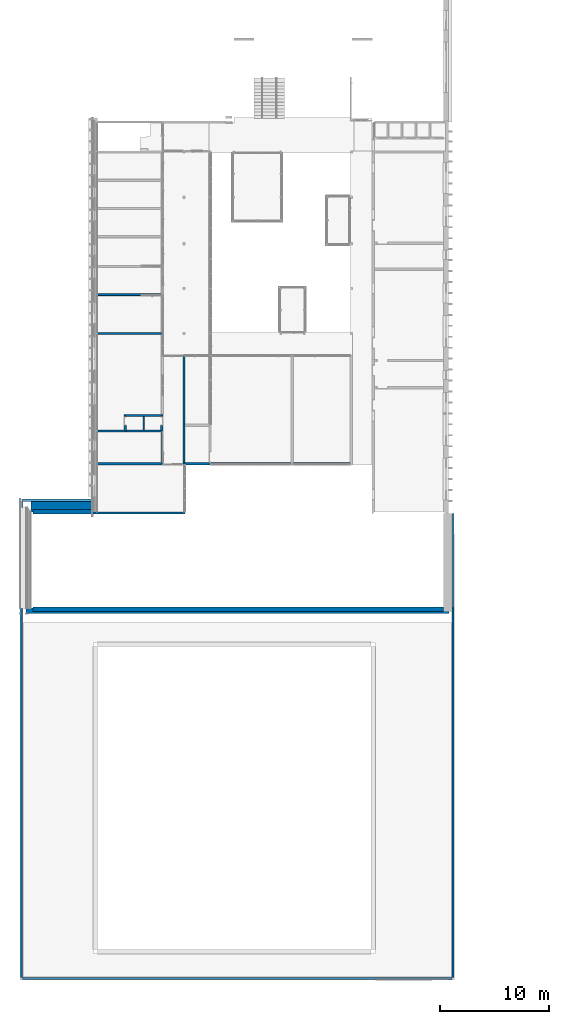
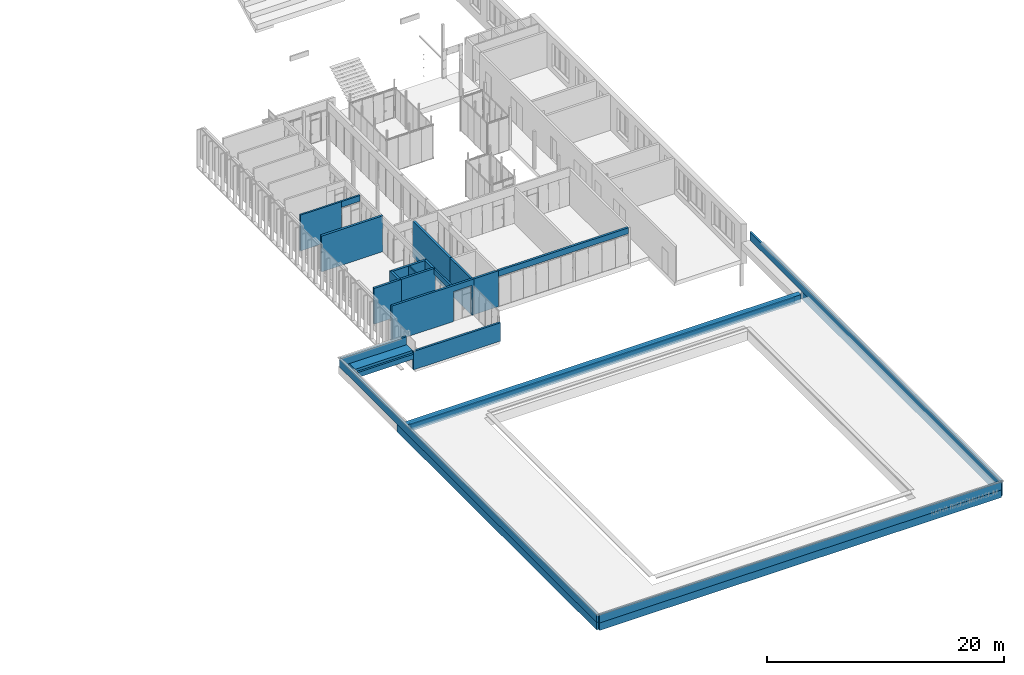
# One storey, part 27 of 387: 27 walls, 3 openings.
"""IFC2X3 building model written with IfcOpenShell, lengths in millimetres."""

from ifc_helpers import new_model, entity, si_unit, converted_unit, derived_unit, money_unit, direction, frame, origin_with_axes, origin_2d_with_axis, place, context, subcontext, project, spatial, polyline, rectangle, outline, extrude, material, layer, layer_set, layer_usage, type_object, element, save


model = new_model("IFC2X3")

# Units and contexts
model_context = context("Model", 3, precision=0.01, world=origin_with_axes(), true_north=direction((0.0, 1.0)))
body_context = subcontext(model_context, "Body", "Model", "MODEL_VIEW")
ifc_project = project(units=[si_unit("LENGTHUNIT", "METRE", prefix="MILLI"), si_unit("AREAUNIT", "SQUARE_METRE"), si_unit("VOLUMEUNIT", "CUBIC_METRE"), converted_unit("PLANEANGLEUNIT", "DEGREE", entity("IfcPlaneAngleMeasure", 0.0174532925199), si_unit("PLANEANGLEUNIT", "RADIAN"), dimensions=[0, 0, 0, 0, 0, 0, 0]), si_unit("SOLIDANGLEUNIT", "STERADIAN"), money_unit("EUR"), converted_unit("TIMEUNIT", "Year", entity("IfcTimeMeasure", 31556926.0), si_unit("TIMEUNIT", "SECOND"), dimensions=[0, 0, 1, 0, 0, 0, 0]), si_unit("MASSUNIT", "GRAM", prefix="KILO"), si_unit("THERMODYNAMICTEMPERATUREUNIT", "DEGREE_CELSIUS"), si_unit("LUMINOUSINTENSITYUNIT", "LUMEN"), si_unit("ENERGYUNIT", "JOULE", prefix="MEGA"), derived_unit("THERMALCONDUCTANCEUNIT", [(si_unit("POWERUNIT", "WATT"), 1), (si_unit("LENGTHUNIT", "METRE"), -1), (si_unit("THERMODYNAMICTEMPERATUREUNIT", "KELVIN"), -1)]), derived_unit("SPECIFICHEATCAPACITYUNIT", [(si_unit("ENERGYUNIT", "JOULE"), 1), (si_unit("MASSUNIT", "GRAM", prefix="KILO"), -1), (si_unit("THERMODYNAMICTEMPERATUREUNIT", "KELVIN"), -1)]), derived_unit("MASSDENSITYUNIT", [(si_unit("MASSUNIT", "GRAM", prefix="KILO"), 1), (si_unit("VOLUMEUNIT", "CUBIC_METRE"), -1)])], contexts=[model_context])

# Site, building, storey
site_placement = place(None, origin_with_axes())
site = spatial("IfcSite", under=ifc_project, at=site_placement, Name="Puškini 31, Narva", CompositionType="ELEMENT")
building_placement = place(site_placement, origin_with_axes())
building = spatial("IfcBuilding", under=site, at=building_placement, Name="Narva Riigigümnaasium", CompositionType="ELEMENT")
storey_placement = place(building_placement, frame((0.0, 0.0, 2640.0), z_axis=(0.0, 0.0, 1.0), x_axis=(1.0, 0.0, 0.0)))
storey = spatial("IfcBuildingStorey", under=building, at=storey_placement, Name="2.korrus +2.64", CompositionType="ELEMENT", Elevation=2640.0)

# Walls
ifc_material_1 = material(Name="Betoon element")
ifc_layer_1 = layer(ifc_material_1, 200.0, ventilated="UNKNOWN")
ifc_layer_set_1 = layer_set([ifc_layer_1], Name="G-SS-01")
ifc_layer_usage_1 = layer_usage(ifc_layer_set_1, "AXIS2", "NEGATIVE", 0.0)
wall_type_1 = type_object("IfcWallType", Name="G-SS-01 200", PredefinedType="NOTDEFINED")
wall_1_placement = place(storey_placement, frame((21939.9999985, 159200.0, 0.0), z_axis=(0.0, 0.0, 1.0), x_axis=(1.0, 0.0, 0.0)))
element("IfcWallStandardCase", 1, at=wall_1_placement, inside=storey, type_object=wall_type_1, material=ifc_layer_usage_1, Name="Sisesein", context=body_context, shape_type="SweptSolid", body=[
    extrude(outline(polyline([(0.0, -200.0), (8460.00000033, -200.0), (8460.00000033, 0.0), (0.0, 0.0), (0.0, -200.0)])), origin_with_axes(), (0.0, 0.0, 1.0), 1895.0),
])
ifc_material_2 = material(Name="SKR-02_Kipsplaat")
ifc_layer_2 = layer(ifc_material_2, 12.5, ventilated="UNKNOWN")
ifc_material_3 = material(Name="SOJ-03_Soojustus - Mineraal Pehme")
ifc_layer_3 = layer(ifc_material_3, 100.0, ventilated="UNKNOWN")
ifc_layer_set_2 = layer_set([ifc_layer_2, ifc_layer_2, ifc_layer_3, ifc_layer_2, ifc_layer_2], Name="G-SS-09")
ifc_layer_usage_2 = layer_usage(ifc_layer_set_2, "AXIS2", "NEGATIVE", 0.0)
wall_type_2 = type_object("IfcWallType", Name="G-SS-09 150", PredefinedType="NOTDEFINED")
wall_2_placement = place(storey_placement, frame((28400.0401775, 166490.0, 3100.0), z_axis=(0.0, 0.0, 1.0), x_axis=(0.0, -1.0, 0.0)))
element("IfcWallStandardCase", 2, at=wall_2_placement, inside=storey, type_object=wall_type_2, material=ifc_layer_usage_2, Name="Sisesein", context=body_context, shape_type="SweptSolid", body=[
    extrude(outline(polyline([(0.0, -150.0), (2790.00000529, -150.0), (2790.0000051, 0.0), (0.0, 0.0), (0.0, -150.0)])), origin_with_axes(), (0.0, 0.0, 1.0), 600.0),
])
ifc_material_4 = material(Name="siseviimistlus-seinad")
ifc_layer_4 = layer(ifc_material_4, 10.0, ventilated="UNKNOWN")
ifc_layer_set_3 = layer_set([ifc_layer_1, ifc_layer_4], Name="G-SS-01-02")
ifc_layer_usage_3 = layer_usage(ifc_layer_set_3, "AXIS2", "POSITIVE", 0.0)
wall_type_3 = type_object("IfcWallType", Name="G-SS-01-02 210", PredefinedType="NOTDEFINED")
wall_3_placement = place(storey_placement, frame((30199.9999988, 167209.999919, 0.0), z_axis=(0.0, 0.0, 1.0), x_axis=(0.0, -1.0, 0.0)))
element("IfcWallStandardCase", 3, at=wall_3_placement, inside=storey, type_object=wall_type_3, material=ifc_layer_usage_3, Name="Sisesein", context=body_context, shape_type="SweptSolid", body=[
    extrude(outline(polyline([(0.0, 0.0), (3509.99992159, 0.0), (3509.99992133, 210.0), (0.0, 210.0), (0.0, 0.0)])), origin_with_axes(), (0.0, 0.0, 1.0), 3700.0),
])
wall_4_placement = place(storey_placement, frame((30199.9999988, 173499.999984, 0.0), z_axis=(0.0, 0.0, 1.0), x_axis=(0.0, -1.0, 0.0)))
element("IfcWallStandardCase", 4, at=wall_4_placement, inside=storey, type_object=wall_type_3, material=ifc_layer_usage_3, Name="Sisesein", context=body_context, shape_type="SweptSolid", body=[
    extrude(outline(polyline([(0.0, 0.0), (6290.00006513, 0.0), (6290.00006513, 210.0), (0.0, 210.0), (0.0, 0.0)])), origin_with_axes(), (0.0, 0.0, 1.0), 3700.0),
])

# Wall, opening
ifc_layer_5 = layer(ifc_material_4, 15.0, ventilated="UNKNOWN")
ifc_material_5 = material(Name="õõnes betoonplokk")
ifc_layer_6 = layer(ifc_material_5, 190.0, ventilated="UNKNOWN")
ifc_layer_set_4 = layer_set([ifc_layer_5, ifc_layer_6, ifc_layer_4], Name="G-SS-02-03")
ifc_layer_usage_4 = layer_usage(ifc_layer_set_4, "AXIS2", "POSITIVE", -15.0)
wall_type_4 = type_object("IfcWallType", Name="G-SS-02-03 215", PredefinedType="NOTDEFINED")
wall_5_placement = place(storey_placement, frame((25039.9999979, 166500.0, 0.0), z_axis=(0.0, 0.0, 1.0), x_axis=(0.0, 1.0, 0.0)))
wall_5 = element("IfcWallStandardCase", 5, at=wall_5_placement, inside=storey, type_object=wall_type_4, material=ifc_layer_usage_4, Name="Sisesein", context=body_context, shape_type="SweptSolid", body=[
    extrude(outline(polyline([(-9.99999999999, -15.0), (1395.0, -15.0), (1610.0, 200.0), (200.0, 200.0), (-9.99999999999, -15.0)])), origin_with_axes(), (0.0, 0.0, 1.0), 3700.0),
])
opening_1_placement = place(wall_5_placement, frame((1010.00000001, 0.0, 0.0), z_axis=(0.0, 0.0, 1.0), x_axis=(1.0, 0.0, 0.0)))
element("IfcOpeningElement", 6, at=opening_1_placement, cuts=wall_5, Name="G-SU-056", context=body_context, shape_type="SweptSolid", body=[
    extrude(rectangle(XDim=799.999999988, YDim=2400.0, at=origin_2d_with_axis()), frame((0.0, -215.0, 1200.0), z_axis=(0.0, -1.0, 0.0), x_axis=(-1.0, 0.0, 0.0)), (0.0, 0.0, -1.0), 645.0),
])

# Walls
ifc_layer_usage_5 = layer_usage(ifc_layer_set_4, "AXIS2", "NEGATIVE", 15.0)
wall_6_placement = place(storey_placement, frame((25039.9999979, 166690.0, 0.0), z_axis=(0.0, 0.0, 1.0), x_axis=(1.0, 0.0, 0.0)))
element("IfcWallStandardCase", 7, at=wall_6_placement, inside=storey, type_object=wall_type_4, material=ifc_layer_usage_5, Name="Sisesein", context=body_context, shape_type="SweptSolid", body=[
    extrude(outline(polyline([(15.0, -200.0), (3360.00000097, -200.0), (3145.00000097, 15.0), (15.0, 15.0), (15.0, -200.0)])), origin_with_axes(), (0.0, 0.0, 1.0), 3700.0),
])
wall_7_placement = place(storey_placement, frame((28199.9999989, 167910.0, 0.0), z_axis=(0.0, 0.0, 1.0), x_axis=(-1.0, 0.0, 0.0)))
element("IfcWallStandardCase", 8, at=wall_7_placement, inside=storey, type_object=wall_type_4, material=ifc_layer_usage_5, Name="Sisesein", context=body_context, shape_type="SweptSolid", body=[
    extrude(outline(polyline([(-200.0, -200.0), (3360.00000097, -200.0), (3145.00000097, 15.0), (15.0, 15.0), (-200.0, -200.0)])), origin_with_axes(), (0.0, 0.0, 1.0), 3700.0),
])

# Wall, opening
wall_8_placement = place(storey_placement, frame((28199.9999989, 166690.0, 0.0), z_axis=(0.0, 0.0, 1.0), x_axis=(0.0, 1.0, 0.0)))
wall_8 = element("IfcWallStandardCase", 9, at=wall_8_placement, inside=storey, type_object=wall_type_4, material=ifc_layer_usage_5, Name="Sisesein", context=body_context, shape_type="SweptSolid", body=[
    extrude(outline(polyline([(-200.0, -200.0), (1420.0, -200.0), (1205.0, 15.0), (15.0, 15.0), (-200.0, -200.0)])), origin_with_axes(), (0.0, 0.0, 1.0), 3700.0),
])
opening_2_placement = place(wall_8_placement, frame((820.000000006, 0.0, 0.0), z_axis=(0.0, 0.0, 1.0), x_axis=(1.0, 0.0, 0.0)))
element("IfcOpeningElement", 10, at=opening_2_placement, cuts=wall_8, Name="G-SU-055", context=body_context, shape_type="SweptSolid", body=[
    extrude(rectangle(XDim=799.999999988, YDim=2400.0, at=origin_2d_with_axis()), frame((0.0, 215.0, 1200.0), z_axis=(0.0, -1.0, 0.0), x_axis=(-1.0, 0.0, 0.0)), (0.0, 0.0, 1.0), 645.0),
])

# Walls
ifc_layer_set_5 = layer_set([ifc_layer_4, ifc_layer_1, ifc_layer_4], Name="G-SS-01-01")
ifc_layer_usage_6 = layer_usage(ifc_layer_set_5, "AXIS2", "POSITIVE", -10.0)
wall_type_5 = type_object("IfcWallType", Name="G-SS-01-01 220", PredefinedType="NOTDEFINED")
wall_9_placement = place(storey_placement, frame((28399.9999994, 175600.000115, 0.0), z_axis=(0.0, 0.0, 1.0), x_axis=(-1.0, 0.0, 0.0)))
element("IfcWallStandardCase", 11, at=wall_9_placement, inside=storey, type_object=wall_type_5, material=ifc_layer_usage_6, Name="Sisesein", context=body_context, shape_type="SweptSolid", body=[
    extrude(outline(polyline([(0.0, -9.99999999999), (5990.00000097, -9.99999999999), (5990.00000097, 210.0), (0.0, 210.0), (0.0, -9.99999999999)])), origin_with_axes(), (0.0, 0.0, 1.0), 3700.0),
])
ifc_material_6 = material(Name="kergbetoonplokk")
ifc_layer_7 = layer(ifc_material_6, 100.0, ventilated="UNKNOWN")
ifc_layer_set_6 = layer_set([ifc_layer_4, ifc_layer_7, ifc_layer_4], Name="G-SS-05")
ifc_layer_usage_7 = layer_usage(ifc_layer_set_6, "AXIS2", "NEGATIVE", 0.0)
wall_type_6 = type_object("IfcWallType", Name="G-SS-05 120", PredefinedType="NOTDEFINED")
wall_10_placement = place(storey_placement, frame((26574.9999921, 166690.0, 0.0), z_axis=(0.0, 0.0, 1.0), x_axis=(0.0, 1.0, 0.0)))
element("IfcWallStandardCase", 12, at=wall_10_placement, inside=storey, type_object=wall_type_6, material=ifc_layer_usage_7, Name="Sisesein", context=body_context, shape_type="SweptSolid", body=[
    extrude(outline(polyline([(15.0, -120.0), (1205.0, -120.0), (1205.0, 0.0), (15.0, 0.0), (15.0, -120.0)])), origin_with_axes(), (0.0, 0.0, 1.0), 3700.0),
])
ifc_layer_8 = layer(ifc_material_6, 150.0, ventilated="UNKNOWN")
ifc_layer_set_7 = layer_set([ifc_layer_4, ifc_layer_8, ifc_layer_4], Name="G-SS-04")
ifc_layer_usage_8 = layer_usage(ifc_layer_set_7, "AXIS2", "NEGATIVE", 10.0)
wall_type_7 = type_object("IfcWallType", Name="G-SS-04 170", PredefinedType="NOTDEFINED")
wall_11_placement = place(storey_placement, frame((22399.9999985, 179119.972032, 0.0), z_axis=(0.0, 0.0, 1.0), x_axis=(1.0, 0.0, 0.0)))
element("IfcWallStandardCase", 13, at=wall_11_placement, inside=storey, type_object=wall_type_7, material=ifc_layer_usage_8, Name="Sisesein", context=body_context, shape_type="SweptSolid", body=[
    extrude(outline(polyline([(10.0, -160.0), (4030.00000157, -160.0), (4030.00000157, 9.99999999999), (10.0, 9.99999999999), (10.0, -160.0)])), origin_with_axes(), (0.0, 0.0, 1.0), 3700.0),
])
wall_12_placement = place(storey_placement, frame((26430.0000053, 179119.972032, 3099.99999095), z_axis=(0.0, 0.0, 1.0), x_axis=(1.0, 0.0, 0.0)))
element("IfcWallStandardCase", 14, at=wall_12_placement, inside=storey, type_object=wall_type_7, material=ifc_layer_usage_8, Name="Sisesein", context=body_context, shape_type="SweptSolid", body=[
    extrude(outline(polyline([(0.0, -160.0), (1799.99999426, -160.0), (1799.99999426, 9.99999999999), (0.0, 9.99999999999), (0.0, -160.0)])), origin_with_axes(), (0.0, 0.0, 1.0), 600.000009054),
])

# Wall, opening
ifc_layer_set_8 = layer_set([ifc_layer_4, ifc_layer_6, ifc_layer_4], Name="G-SS-02")
ifc_layer_usage_9 = layer_usage(ifc_layer_set_8, "AXIS2", "POSITIVE", -10.0)
wall_type_8 = type_object("IfcWallType", Name="G-SS-02 210", PredefinedType="NOTDEFINED")
wall_13_placement = place(storey_placement, frame((22399.9999985, 163499.999988, 0.0), z_axis=(0.0, 0.0, 1.0), x_axis=(1.0, 1.23307586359e-09, 0.0)))
wall_13 = element("IfcWallStandardCase", 15, at=wall_13_placement, inside=storey, type_object=wall_type_8, material=ifc_layer_usage_9, Name="Sisesein", context=body_context, shape_type="SweptSolid", body=[
    extrude(outline(polyline([(9.99999998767, -9.99999999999), (8000.00000033, -9.99999999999), (8000.00000033, 200.0), (10.0000002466, 200.0), (9.99999998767, -9.99999999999)])), origin_with_axes(), (0.0, 0.0, 1.0), 3700.0),
])
opening_3_placement = place(wall_13_placement, frame((6900.00000068, 0.0, 0.0), z_axis=(0.0, 0.0, 1.0), x_axis=(1.0, 0.0, 0.0)))
element("IfcOpeningElement", 16, at=opening_3_placement, cuts=wall_13, Name="Tühi ava", context=body_context, shape_type="SweptSolid", body=[
    extrude(rectangle(XDim=1799.9999994, YDim=3094.1106482, at=origin_2d_with_axis()), frame((-2.46615172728e-07, -210.0, 1547.0553241), z_axis=(1.23307586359e-09, 1.0, 0.0), x_axis=(-1.0, 1.23307598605e-09, 0.0)), (0.0, 0.0, 1.0), 630.0),
])

# Walls
wall_14_placement = place(storey_placement, frame((22399.9999985, 166500.0, 0.0), z_axis=(0.0, 0.0, 1.0), x_axis=(1.0, 0.0, 0.0)))
element("IfcWallStandardCase", 17, at=wall_14_placement, inside=storey, type_object=wall_type_8, material=ifc_layer_usage_9, Name="Sisesein", context=body_context, shape_type="SweptSolid", body=[
    extrude(outline(polyline([(10.0, -9.99999999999), (2654.99999944, -9.99999999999), (2439.99999944, 200.0), (10.0, 200.0), (10.0, -9.99999999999)])), origin_with_axes(), (0.0, 0.0, 1.0), 3700.0),
])
wall_15_placement = place(storey_placement, frame((30399.9999988, 163499.999998, 0.0), z_axis=(0.0, 0.0, 1.0), x_axis=(1.0, 1.23307586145e-09, 0.0)))
element("IfcWallStandardCase", 18, at=wall_15_placement, inside=storey, type_object=wall_type_8, material=ifc_layer_usage_9, Name="Sisesein", context=body_context, shape_type="SweptSolid", body=[
    extrude(outline(polyline([(0.0, -9.99999999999), (2400.00000425, -9.99999999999), (2190.00000451, 200.0), (0.0, 200.0), (0.0, -9.99999999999)])), origin_with_axes(), (0.0, 0.0, 1.0), 3700.0),
])
ifc_layer_usage_10 = layer_usage(ifc_layer_set_8, "AXIS2", "POSITIVE", 0.0)
wall_16_placement = place(storey_placement, frame((45490.0000034, 163699.999999, 3099.99999095), z_axis=(0.0, 0.0, 1.0), x_axis=(-1.0, 0.0, 0.0)))
element("IfcWallStandardCase", 19, at=wall_16_placement, inside=storey, type_object=wall_type_8, material=ifc_layer_usage_10, Name="Sisesein", context=body_context, shape_type="SweptSolid", body=[
    extrude(outline(polyline([(0.0, 0.0), (12700.0000004, 0.0), (12700.0000004, 210.0), (0.0, 210.0), (0.0, 0.0)])), origin_with_axes(), (0.0, 0.0, 1.0), 600.000009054),
])
ifc_layer_9 = layer(ifc_material_1, 400.0, ventilated="UNKNOWN")
ifc_layer_set_9 = layer_set([ifc_layer_9], Name="Betoon element 400")
ifc_layer_usage_11 = layer_usage(ifc_layer_set_9, "AXIS2", "POSITIVE", -400.0)
wall_type_9 = type_object("IfcWallType", Name="Betoon element 400", PredefinedType="NOTDEFINED")
wall_17_placement = place(storey_placement, frame((16521.9999994, 150500.00001, 1120.0), z_axis=(0.0, 0.0, 1.0), x_axis=(1.0, 0.0, 0.0)))
element("IfcWallStandardCase", 20, at=wall_17_placement, inside=storey, type_object=wall_type_9, material=ifc_layer_usage_11, Name="Välissein", context=body_context, shape_type="SweptSolid", body=[
    extrude(outline(polyline([(0.0, -400.0), (37480.0000006, -400.0), (37480.0000006, 0.0), (0.0, 0.0), (0.0, -400.0)])), origin_with_axes(), (0.0, 0.0, 1.0), 510.0),
])
ifc_layer_usage_12 = layer_usage(ifc_layer_set_9, "AXIS2", "NEGATIVE", 400.0)
wall_18_placement = place(storey_placement, frame((16523.9999994, 158999.999992, 1120.0), z_axis=(0.0, 0.0, 1.0), x_axis=(1.0, 1.49066513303e-09, 0.0)))
element("IfcWallStandardCase", 21, at=wall_18_placement, inside=storey, type_object=wall_type_9, material=ifc_layer_usage_12, Name="Välissein", context=body_context, shape_type="SweptSolid", body=[
    extrude(outline(polyline([(0.0, 0.0), (5415.99999906, 0.0), (5415.99999906, 400.0), (0.0, 400.0), (0.0, 0.0)])), origin_with_axes(), (0.0, 0.0, 1.0), 510.0),
])
ifc_material_7 = material(Name="fassaadiplaat")
ifc_layer_10 = layer(ifc_material_7, 10.0, ventilated="UNKNOWN")
ifc_material_8 = material(Name="Salto-roovitus")
ifc_layer_11 = layer(ifc_material_8, 50.0, ventilated="UNKNOWN")
ifc_material_9 = material(Name="Soojustus - PIR")
ifc_layer_12 = layer(ifc_material_9, 430.0, ventilated="UNKNOWN")
ifc_material_10 = material(Name="Salto-siseviimistlus")
ifc_layer_13 = layer(ifc_material_10, 10.0, ventilated="UNKNOWN")
ifc_layer_set_10 = layer_set([ifc_layer_10, ifc_layer_11, ifc_layer_12, ifc_layer_13], Name="VS-01-1")
ifc_layer_usage_13 = layer_usage(ifc_layer_set_10, "AXIS2", "NEGATIVE", 0.0)
wall_type_10 = type_object("IfcWallType", Name="VS-01-1 500", PredefinedType="NOTDEFINED")
wall_19_placement = place(storey_placement, frame((15899.9999994, 150407.766248, 1119.99996403), z_axis=(0.0, 0.0, 1.0), x_axis=(1.0, 0.0, 0.0)))
element("IfcWallStandardCase", 22, at=wall_19_placement, inside=storey, type_object=wall_type_10, material=ifc_layer_usage_13, Name="Välissein", context=body_context, shape_type="SweptSolid", body=[
    extrude(outline(polyline([(0.0, -500.0), (38600.0, -500.0), (38600.0, 0.0), (0.0, 0.0), (0.0, -500.0)])), origin_with_axes(), (0.0, 0.0, 1.0), 775.0),
])
ifc_layer_14 = layer(ifc_material_7, 8.0, ventilated="UNKNOWN")
ifc_material_11 = material(Name="Salto-PIR soojustus")
ifc_layer_15 = layer(ifc_material_11, 50.0, ventilated="UNKNOWN")
ifc_material_12 = material(Name="SKR-05_Vineer")
ifc_layer_16 = layer(ifc_material_12, 21.0, ventilated="UNKNOWN")
ifc_material_13 = material(Name="SBS")
ifc_layer_17 = layer(ifc_material_13, 5.0, ventilated="UNKNOWN")
ifc_layer_set_11 = layer_set([ifc_layer_14, ifc_layer_11, ifc_layer_15, ifc_layer_15, ifc_layer_16, ifc_layer_17], Name="G-VS-01-P1")
ifc_layer_usage_14 = layer_usage(ifc_layer_set_11, "AXIS2", "POSITIVE", -179.0)
wall_type_11 = type_object("IfcWallType", Name="G-VS-01-P1 184", PredefinedType="NOTDEFINED")
wall_20_placement = place(storey_placement, frame((54779.0, 116680.503479, 1895.0), z_axis=(0.0, 0.0, 1.0), x_axis=(0.0, 1.0, 0.0)))
element("IfcWallStandardCase", 23, at=wall_20_placement, inside=storey, type_object=wall_type_11, material=ifc_layer_usage_14, Name="Sisesein", context=body_context, shape_type="SweptSolid", body=[
    extrude(outline(polyline([(0.0, -179.0), (42372.1701324, -179.0), (42372.1701324, 5.0), (0.0, 5.0), (0.0, -179.0)])), origin_with_axes(), (0.0, 0.0, 1.0), 825.0),
])
wall_21_placement = place(storey_placement, frame((15546.0, 160178.999992, 1895.0), z_axis=(0.0, 0.0, 1.0), x_axis=(0.0, -1.0, 0.0)))
element("IfcWallStandardCase", 24, at=wall_21_placement, inside=storey, type_object=wall_type_11, material=ifc_layer_usage_14, Name="Sisesein", context=body_context, shape_type="SweptSolid", body=[
    extrude(outline(polyline([(0.0, -179.0), (43498.4965127, -179.0), (43498.4965127, 5.0), (0.0, 5.0), (0.0, -179.0)])), origin_with_axes(), (0.0, 0.0, 1.0), 825.0),
])
wall_22_placement = place(storey_placement, frame((15546.0, 116680.503479, 1895.0), z_axis=(0.0, 0.0, 1.0), x_axis=(1.0, 0.0, 0.0)))
element("IfcWallStandardCase", 25, at=wall_22_placement, inside=storey, type_object=wall_type_11, material=ifc_layer_usage_14, Name="Sisesein", context=body_context, shape_type="SweptSolid", body=[
    extrude(outline(polyline([(0.0, -179.0), (39233.0, -179.0), (39233.0, 5.0), (0.0, 5.0), (0.0, -179.0)])), origin_with_axes(), (0.0, 0.0, 1.0), 825.0),
])
wall_23_placement = place(storey_placement, frame((15546.0, 116680.503479, 1120.0000193), z_axis=(0.0, 0.0, 1.0), x_axis=(1.0, 0.0, 0.0)))
element("IfcWallStandardCase", 26, at=wall_23_placement, inside=storey, type_object=wall_type_11, material=ifc_layer_usage_14, Name="Sisesein", context=body_context, shape_type="SweptSolid", body=[
    extrude(outline(polyline([(0.0, -179.0), (39233.0, -179.0), (39233.0, 5.0), (0.0, 5.0), (0.0, -179.0)])), origin_with_axes(), (0.0, 0.0, 1.0), 774.999980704),
])
ifc_layer_usage_15 = layer_usage(ifc_layer_set_11, "AXIS2", "NEGATIVE", 179.0)
wall_24_placement = place(storey_placement, frame((15546.0, 160178.999992, 1895.0), z_axis=(0.0, 0.0, 1.0), x_axis=(1.0, 0.0, 0.0)))
element("IfcWallStandardCase", 27, at=wall_24_placement, inside=storey, type_object=wall_type_11, material=ifc_layer_usage_15, Name="Sisesein", context=body_context, shape_type="SweptSolid", body=[
    extrude(outline(polyline([(0.0, -5.0), (6353.99999844, -5.0), (6353.99999844, 179.0), (0.0, 179.0), (0.0, -5.0)])), origin_with_axes(), (0.0, 0.0, 1.0), 825.0),
])
wall_25_placement = place(storey_placement, frame((15546.0, 150397.766248, 1120.0000193), z_axis=(0.0, 0.0, 1.0), x_axis=(0.0, -1.0, 0.0)))
element("IfcWallStandardCase", 28, at=wall_25_placement, inside=storey, type_object=wall_type_11, material=ifc_layer_usage_14, Name="Sisesein", context=body_context, shape_type="SweptSolid", body=[
    extrude(outline(polyline([(0.0, -179.0), (33717.2627691, -179.0), (33717.2627691, 5.0), (0.0, 5.0), (0.0, -179.0)])), origin_with_axes(), (0.0, 0.0, 1.0), 774.999980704),
])
wall_26_placement = place(storey_placement, frame((54779.0, 150407.766248, 1120.0000193), z_axis=(0.0, 0.0, 1.0), x_axis=(0.0, -1.0, 0.0)))
element("IfcWallStandardCase", 29, at=wall_26_placement, inside=storey, type_object=wall_type_11, material=ifc_layer_usage_15, Name="Sisesein", context=body_context, shape_type="SweptSolid", body=[
    extrude(outline(polyline([(0.0, -5.0), (33727.2627691, -5.0), (33727.2627691, 179.0), (0.0, 179.0), (0.0, -5.0)])), origin_with_axes(), (0.0, 0.0, 1.0), 774.999980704),
])
ifc_material_14 = material(Name="VKR-06_Õhkvahe")
ifc_layer_18 = layer(ifc_material_14, 750.0, ventilated="UNKNOWN")
ifc_layer_19 = layer(ifc_material_11, 150.0, ventilated="UNKNOWN")
ifc_layer_set_12 = layer_set([ifc_layer_14, ifc_layer_18, ifc_layer_15, ifc_layer_19, ifc_layer_1], Name="G-VS-01-P5")
ifc_layer_usage_16 = layer_usage(ifc_layer_set_12, "AXIS2", "NEGATIVE", 1158.0)
wall_type_12 = type_object("IfcWallType", Name="G-VS-01-P5 1158", PredefinedType="NOTDEFINED")
wall_27_placement = place(storey_placement, frame((16325.0, 159199.999992, 1120.0), z_axis=(0.0, 0.0, 1.0), x_axis=(1.0, 0.0, 0.0)))
element("IfcWallStandardCase", 30, at=wall_27_placement, inside=storey, type_object=wall_type_12, material=ifc_layer_usage_16, Name="Sisesein", context=body_context, shape_type="SweptSolid", body=[
    extrude(outline(polyline([(0.0, 0.0), (5616.99999845, 0.0), (5616.99999845, 1158.0), (0.0, 1158.0), (0.0, 0.0)])), origin_with_axes(), (0.0, 0.0, 1.0), 775.0),
])

save(model, "model.ifc")
